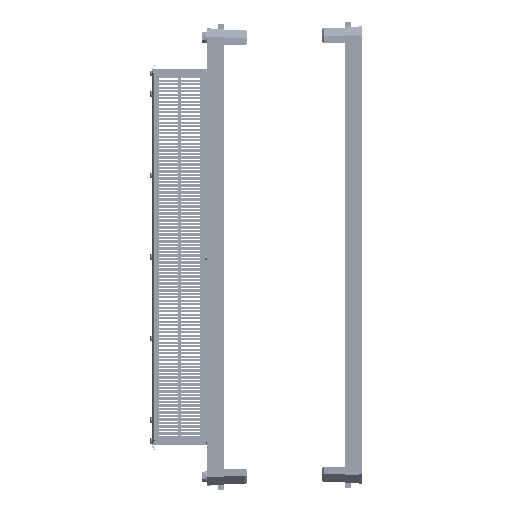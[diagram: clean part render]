
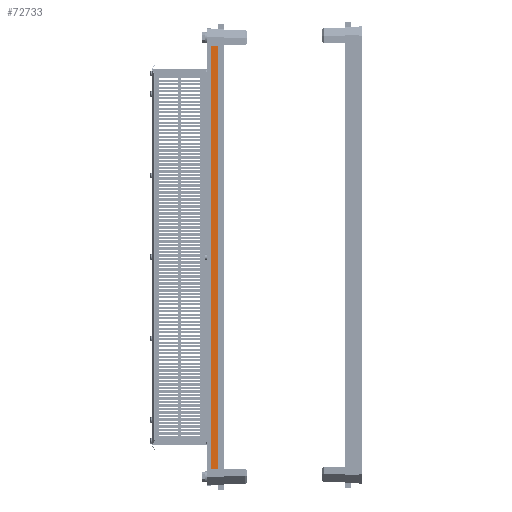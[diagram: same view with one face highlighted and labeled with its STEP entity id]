
A CAD part, left-side view. The second image highlights one B-rep face of the part: STEP entity #72733.
In plain terms, the highlighted planar face has unit normal (-1, 0, 0).
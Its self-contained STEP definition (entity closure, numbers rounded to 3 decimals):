
#1316 = AXIS2_PLACEMENT_3D ( 'NONE', #133548, #300374, #33178 ) ;
#1880 = VERTEX_POINT ( 'NONE', #15229 ) ;
#7079 = CARTESIAN_POINT ( 'NONE',  ( -789.5, -141.8, -46. ) ) ;
#15229 = CARTESIAN_POINT ( 'NONE',  ( -789.5, -119.3, -46. ) ) ;
#33178 = DIRECTION ( 'NONE',  ( 0., 0., -1. ) ) ;
#39090 = CARTESIAN_POINT ( 'NONE',  ( -789.5, -119.3, -954. ) ) ;
#53101 = VECTOR ( 'NONE', #161703, 1000. ) ;
#53923 = VECTOR ( 'NONE', #105943, 1000. ) ;
#55794 = LINE ( 'NONE', #206382, #53923 ) ;
#58447 = ORIENTED_EDGE ( 'NONE', *, *, #217667, .T. ) ;
#61365 = LINE ( 'NONE', #258852, #53101 ) ;
#63572 = CARTESIAN_POINT ( 'NONE',  ( -789.5, -140.5, -954. ) ) ;
#67513 = VECTOR ( 'NONE', #157846, 1000. ) ;
#72733 = ADVANCED_FACE ( 'NONE', ( #280880 ), #178970, .F. ) ;
#102334 = EDGE_CURVE ( 'NONE', #198384, #218648, #55794, .T. ) ;
#105943 = DIRECTION ( 'NONE',  ( 0., 0., -1. ) ) ;
#107304 = DIRECTION ( 'NONE',  ( 0., 1., 0. ) ) ;
#113974 = CARTESIAN_POINT ( 'NONE',  ( -789.5, -141.8, -954. ) ) ;
#124944 = EDGE_CURVE ( 'NONE', #218648, #166117, #133211, .T. ) ;
#133211 = LINE ( 'NONE', #63572, #257756 ) ;
#133548 = CARTESIAN_POINT ( 'NONE',  ( -789.5, -140.5, -954. ) ) ;
#133570 = CARTESIAN_POINT ( 'NONE',  ( -789.5, -119.3, -954. ) ) ;
#157846 = DIRECTION ( 'NONE',  ( 0., 0., 1. ) ) ;
#159817 = EDGE_CURVE ( 'NONE', #166117, #1880, #288899, .T. ) ;
#161703 = DIRECTION ( 'NONE',  ( 0., 1., 0. ) ) ;
#162100 = ORIENTED_EDGE ( 'NONE', *, *, #102334, .F. ) ;
#166117 = VERTEX_POINT ( 'NONE', #39090 ) ;
#177098 = ORIENTED_EDGE ( 'NONE', *, *, #159817, .F. ) ;
#178970 = PLANE ( 'NONE',  #1316 ) ;
#198384 = VERTEX_POINT ( 'NONE', #7079 ) ;
#206382 = CARTESIAN_POINT ( 'NONE',  ( -789.5, -141.8, -954. ) ) ;
#217667 = EDGE_CURVE ( 'NONE', #198384, #1880, #61365, .T. ) ;
#218648 = VERTEX_POINT ( 'NONE', #113974 ) ;
#238699 = ORIENTED_EDGE ( 'NONE', *, *, #124944, .F. ) ;
#257756 = VECTOR ( 'NONE', #107304, 1000. ) ;
#258852 = CARTESIAN_POINT ( 'NONE',  ( -789.5, -140.5, -46. ) ) ;
#280880 = FACE_OUTER_BOUND ( 'NONE', #298972, .T. ) ;
#288899 = LINE ( 'NONE', #133570, #67513 ) ;
#298972 = EDGE_LOOP ( 'NONE', ( #58447, #177098, #238699, #162100 ) ) ;
#300374 = DIRECTION ( 'NONE',  ( 1., 0., 0. ) ) ;
